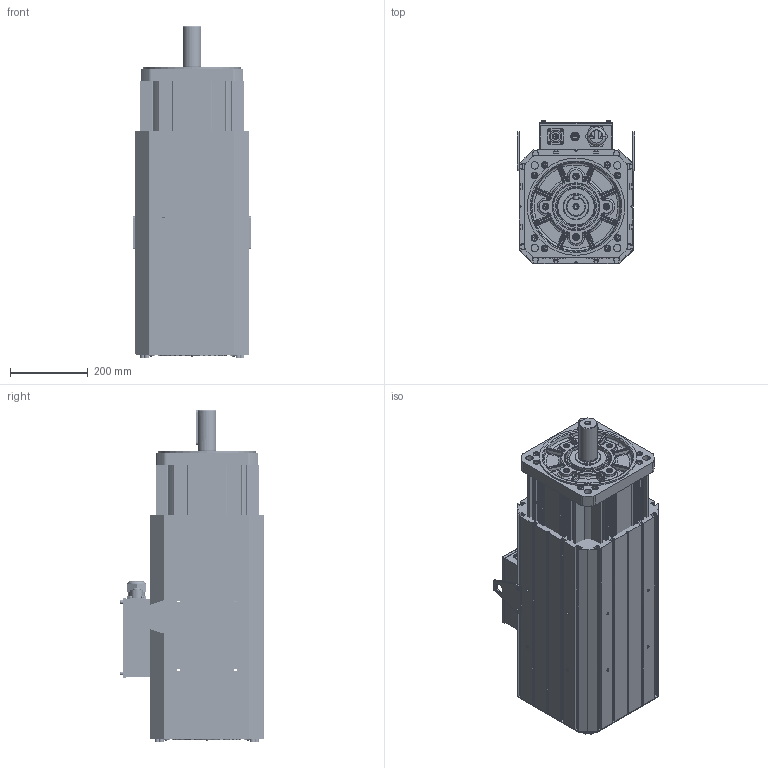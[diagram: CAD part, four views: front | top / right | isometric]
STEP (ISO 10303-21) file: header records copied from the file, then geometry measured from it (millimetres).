
FILE_DESCRIPTION (( 'STEP AP214' ), '1' );
FILE_NAME ('VM7-M26D-03715-D2FN.STEP', '2022-04-02T01:24:11', ( '' ), ( '' ), 'SwSTEP 2.0', 'SolidWorks 2014', '' );
FILE_SCHEMA (( 'AUTOMOTIVE_DESIGN' ));
Length unit declared in the file: millimetre
Products named in the file (3): VM7-M26D-03715-D2FN; 翋极; 俋褲
Assembly tree (2 placements, depth 2):
  VM7-M26D-03715-D2FN
    翋极
    俋褲
Bounding box: 302 x 368.5 x 853 mm (x, y, z)
Volume: 23584753.9 mm3; surface area: 4181564 mm2
Topology: 120 solids, 120 shells, 4432 faces, 11332 edges, 7180 vertices
Faces by surface type: plane 2597, cylinder 1089, bspline 445, cone 301
Entity records: 152572 total; most frequent: CARTESIAN_POINT 45525, ORIENTED_EDGE 22412, DIRECTION 21224, EDGE_CURVE 11206, LINE 7212, VECTOR 7212, VERTEX_POINT 7180, AXIS2_PLACEMENT_3D 7006
